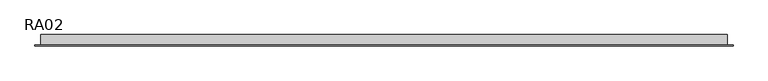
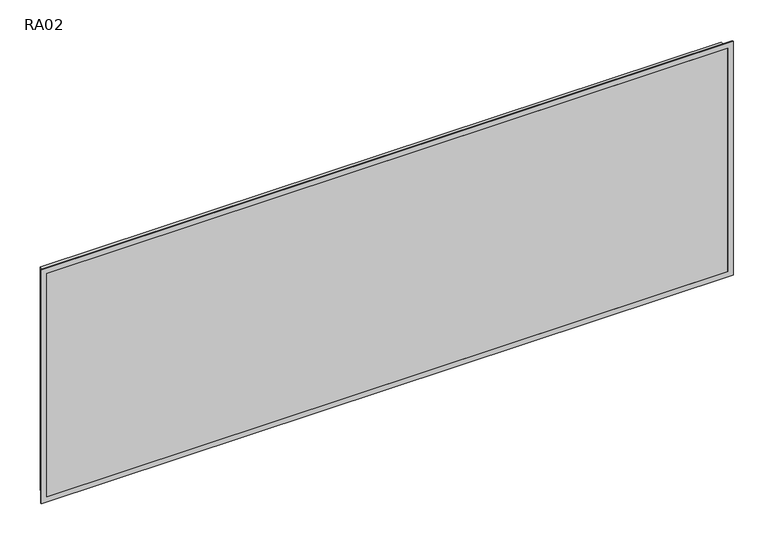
"""IFC4 building model written with IfcOpenShell, lengths in millimetres: air terminal geometry, ZYR_03.06.04.01 Reixa Paret Sobrepressio : RA02."""

from ifc_helpers import new_model, si_unit, frame, origin, place, context, project, spatial, polyline, outline, extrude, source, transform, mapped, element, save


def ra02_ce4f6fbb(model_context):
    return source(origin(), model_context, "Body", "SweptSolid", [
        extrude(outline(polyline([(612.5, 0.0), (-612.5, 0.0), (-612.5, 20.0), (612.5, 20.0), (612.5, 0.0)])), frame((0.0, 0.0, -212.5), z_axis=(0.0, 0.0, 1.0), x_axis=(1.0, 0.0, 0.0)), (0.0, 0.0, 1.0), 425.0),
        extrude(outline(polyline([(222.5, 622.5), (222.5, -622.5), (-222.5, -622.5), (-222.5, 622.5), (222.5, 622.5)]), holes=[polyline([(212.5, 612.5), (-212.5, 612.5), (-212.5, -612.5), (212.5, -612.5), (212.5, 612.5)])]), frame((0.0, 0.0, 0.0), z_axis=(0.0, 1.0, 0.0), x_axis=(0.0, 0.0, 1.0)), (0.0, 0.0, 1.0), 2.0),
    ])


if __name__ == "__main__":
    model = new_model("IFC4")
    model_context = context("Model", 3, world=origin())
    ifc_project = project(units=[si_unit("LENGTHUNIT", "METRE", prefix="MILLI")], contexts=[model_context])
    site = spatial("IfcSite", under=ifc_project)
    building = spatial("IfcBuilding", under=site)
    placement = place(None, origin())
    ra02_shape = ra02_ce4f6fbb(model_context)
    element("IfcAirTerminal", 1, ObjectType="ZYR_03.06.04.01 Reixa Paret Sobrepressio : RA02", at=placement, inside=building, context=model_context, shape_type="MappedRepresentation", body=[
        mapped(ra02_shape, transform((0.0, 0.0, 0.0), x_axis=(1.0, 0.0, 0.0), y_axis=(0.0, 1.0, 0.0), z_axis=(0.0, 0.0, 1.0))),
    ])
    save(model, "model.ifc")
